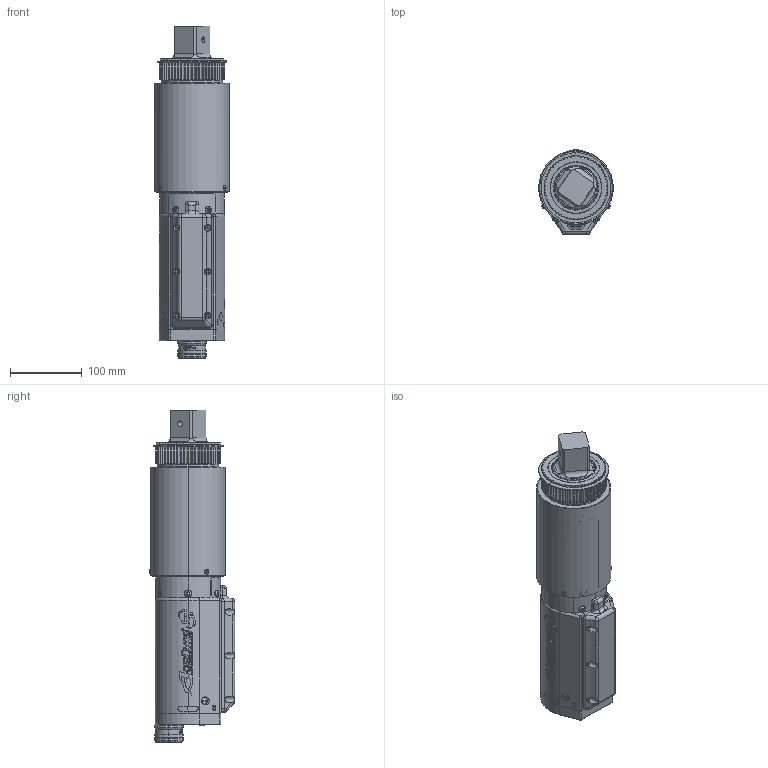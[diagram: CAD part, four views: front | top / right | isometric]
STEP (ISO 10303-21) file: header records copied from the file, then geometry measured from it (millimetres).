
FILE_DESCRIPTION (( 'STEP AP214' ), '1' );
FILE_NAME ('AEF4A896500B, AEF4A898100B.STEP', '2016-04-04T20:26:23', ( 'AIMCO' ), ( '' ), 'SwSTEP 2.0', 'SolidWorks 2016', '' );
FILE_SCHEMA (( 'AUTOMOTIVE_DESIGN' ));
Length unit declared in the file: inch
Products named in the file (1): AEF4A896500B, AEF4A898100B
Bounding box: 103.78 x 118.52 x 461.64 mm (x, y, z)
Surface area: 313328.8 mm2 (no closed solid volume)
Topology: 0 solids, 84 shells, 1192 faces, 4106 edges, 2823 vertices
Faces by surface type: cylinder 455, plane 316, bspline 202, cone 106, torus 99, sphere 14
Entity records: 132684 total; most frequent: CARTESIAN_POINT 84897, ORIENTED_EDGE 6450, DIRECTION 6170, EDGE_CURVE 4098, VERTEX_POINT 2823, AXIS2_PLACEMENT_3D 2351, LINE 1468, VECTOR 1468
